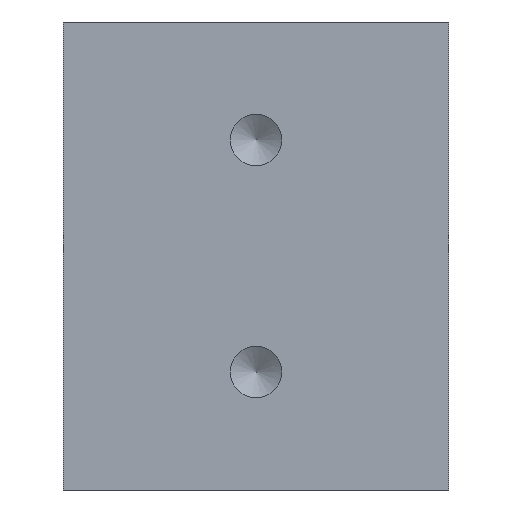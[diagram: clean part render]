
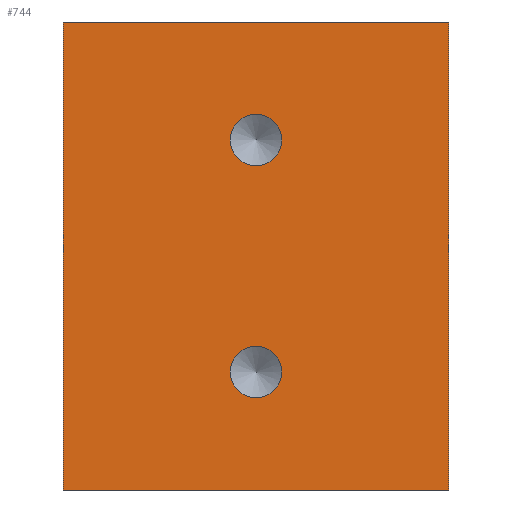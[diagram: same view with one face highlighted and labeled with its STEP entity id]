
A CAD part, front view. The second image highlights one B-rep face of the part: STEP entity #744.
In plain terms, the highlighted planar face has unit normal (0, -1, 0).
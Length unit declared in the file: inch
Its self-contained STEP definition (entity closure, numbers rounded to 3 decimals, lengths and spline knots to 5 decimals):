
#54=FACE_BOUND('',#152,.T.);
#55=FACE_BOUND('',#153,.T.);
#67=PLANE('',#880);
#102=FACE_OUTER_BOUND('',#151,.T.);
#151=EDGE_LOOP('',(#641,#642,#643,#644));
#152=EDGE_LOOP('',(#645,#646));
#153=EDGE_LOOP('',(#647,#648));
#171=LINE('',#1164,#225);
#179=LINE('',#1199,#233);
#199=LINE('',#1267,#253);
#210=LINE('',#1305,#264);
#225=VECTOR('',#926,0.3937);
#233=VECTOR('',#962,0.3937);
#253=VECTOR('',#1034,0.3937);
#264=VECTOR('',#1075,0.3937);
#303=CIRCLE('',#869,0.069);
#304=CIRCLE('',#870,0.069);
#307=CIRCLE('',#875,0.069);
#308=CIRCLE('',#876,0.069);
#327=VERTEX_POINT('',#1161);
#328=VERTEX_POINT('',#1163);
#340=VERTEX_POINT('',#1196);
#341=VERTEX_POINT('',#1198);
#368=VERTEX_POINT('',#1279);
#369=VERTEX_POINT('',#1280);
#373=VERTEX_POINT('',#1292);
#374=VERTEX_POINT('',#1293);
#401=EDGE_CURVE('',#327,#328,#171,.T.);
#418=EDGE_CURVE('',#340,#341,#179,.T.);
#452=EDGE_CURVE('',#341,#327,#199,.T.);
#458=EDGE_CURVE('',#368,#369,#303,.T.);
#459=EDGE_CURVE('',#369,#368,#304,.T.);
#464=EDGE_CURVE('',#373,#374,#307,.T.);
#465=EDGE_CURVE('',#374,#373,#308,.T.);
#471=EDGE_CURVE('',#340,#328,#210,.T.);
#641=ORIENTED_EDGE('',*,*,#471,.T.);
#642=ORIENTED_EDGE('',*,*,#401,.F.);
#643=ORIENTED_EDGE('',*,*,#452,.F.);
#644=ORIENTED_EDGE('',*,*,#418,.F.);
#645=ORIENTED_EDGE('',*,*,#458,.T.);
#646=ORIENTED_EDGE('',*,*,#459,.T.);
#647=ORIENTED_EDGE('',*,*,#464,.T.);
#648=ORIENTED_EDGE('',*,*,#465,.T.);
#744=ADVANCED_FACE('',(#102,#54,#55),#67,.T.);
#869=AXIS2_PLACEMENT_3D('',#1281,#1046,#1047);
#870=AXIS2_PLACEMENT_3D('',#1282,#1048,#1049);
#875=AXIS2_PLACEMENT_3D('',#1294,#1060,#1061);
#876=AXIS2_PLACEMENT_3D('',#1295,#1062,#1063);
#880=AXIS2_PLACEMENT_3D('',#1306,#1076,#1077);
#926=DIRECTION('',(1.,0.,0.));
#962=DIRECTION('',(-1.,0.,0.));
#1034=DIRECTION('',(0.,0.,1.));
#1046=DIRECTION('center_axis',(0.,1.,0.));
#1047=DIRECTION('ref_axis',(1.,0.,0.));
#1048=DIRECTION('center_axis',(0.,1.,0.));
#1049=DIRECTION('ref_axis',(1.,0.,0.));
#1060=DIRECTION('center_axis',(0.,1.,0.));
#1061=DIRECTION('ref_axis',(1.,0.,0.));
#1062=DIRECTION('center_axis',(0.,1.,0.));
#1063=DIRECTION('ref_axis',(1.,0.,0.));
#1075=DIRECTION('',(0.,0.,1.));
#1076=DIRECTION('center_axis',(0.,-1.,0.));
#1077=DIRECTION('ref_axis',(1.,0.,0.));
#1161=CARTESIAN_POINT('',(-0.515,-1.11,0.625));
#1163=CARTESIAN_POINT('',(0.515,-1.11,0.625));
#1164=CARTESIAN_POINT('',(-0.515,-1.11,0.625));
#1196=CARTESIAN_POINT('',(0.515,-1.11,-0.625));
#1198=CARTESIAN_POINT('',(-0.515,-1.11,-0.625));
#1199=CARTESIAN_POINT('',(-0.515,-1.11,-0.625));
#1267=CARTESIAN_POINT('',(-0.515,-1.11,0.));
#1279=CARTESIAN_POINT('',(0.069,-1.11,0.31));
#1280=CARTESIAN_POINT('',(-0.069,-1.11,0.31));
#1281=CARTESIAN_POINT('Origin',(0.,-1.11,0.31));
#1282=CARTESIAN_POINT('Origin',(0.,-1.11,0.31));
#1292=CARTESIAN_POINT('',(0.069,-1.11,-0.31));
#1293=CARTESIAN_POINT('',(-0.069,-1.11,-0.31));
#1294=CARTESIAN_POINT('Origin',(0.,-1.11,-0.31));
#1295=CARTESIAN_POINT('Origin',(0.,-1.11,-0.31));
#1305=CARTESIAN_POINT('',(0.515,-1.11,0.));
#1306=CARTESIAN_POINT('Origin',(-0.515,-1.11,0.));
